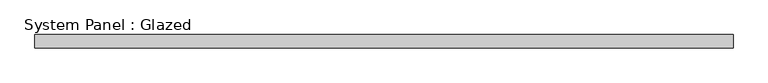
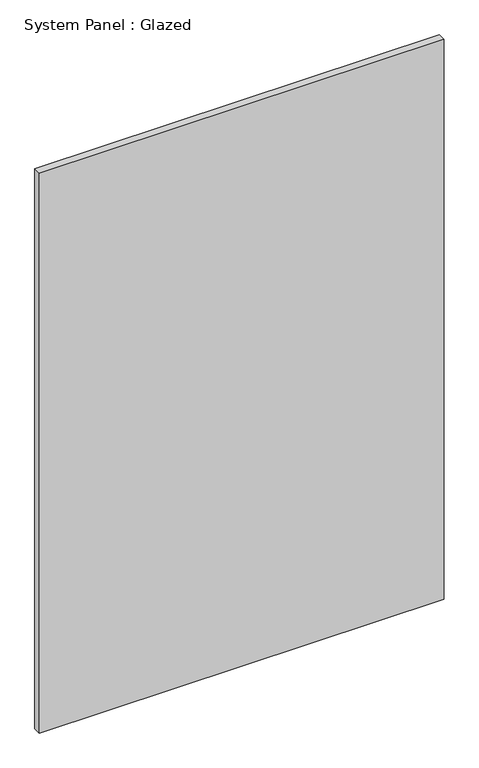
"""IFC4 building model written with IfcOpenShell, lengths in millimetres: plate geometry, System Panel : Glazed."""

from ifc_helpers import new_model, si_unit, origin, origin_with_axes, place, context, project, spatial, polyline, outline, extrude, source, transform, mapped, element, save


def system_panel_glazed_41482947(model_context):
    return source(origin(), model_context, "Body", "SweptSolid", [
        extrude(outline(polyline([(669.7103534, 19.05), (-669.7103534, 19.05), (-669.7103534, 44.45), (669.7103534, 44.45), (669.7103534, 19.05)])), origin_with_axes(), (0.0, 0.0, 1.0), 1957.9166667),
    ])


if __name__ == "__main__":
    model = new_model("IFC4")
    model_context = context("Model", 3, world=origin())
    ifc_project = project(units=[si_unit("LENGTHUNIT", "METRE", prefix="MILLI")], contexts=[model_context])
    site = spatial("IfcSite", under=ifc_project)
    building = spatial("IfcBuilding", under=site)
    placement = place(None, origin())
    system_panel_glazed_shape = system_panel_glazed_41482947(model_context)
    element("IfcPlate", 1, ObjectType="System Panel : Glazed", at=placement, inside=building, context=model_context, shape_type="MappedRepresentation", body=[
        mapped(system_panel_glazed_shape, transform((0.0, 0.0, 0.0), x_axis=(1.0, 0.0, 0.0), y_axis=(0.0, 1.0, 0.0), z_axis=(0.0, 0.0, 1.0))),
    ])
    save(model, "model.ifc")
